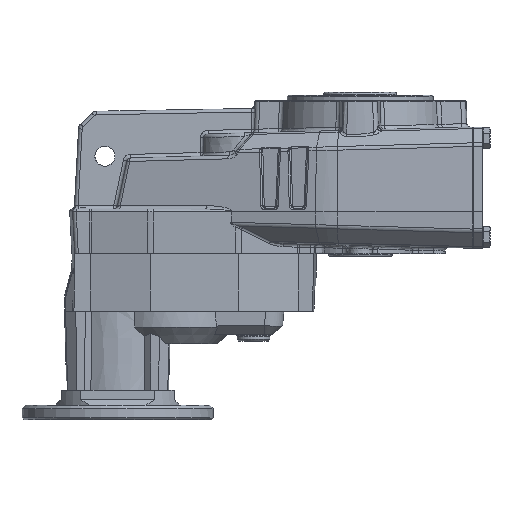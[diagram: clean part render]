
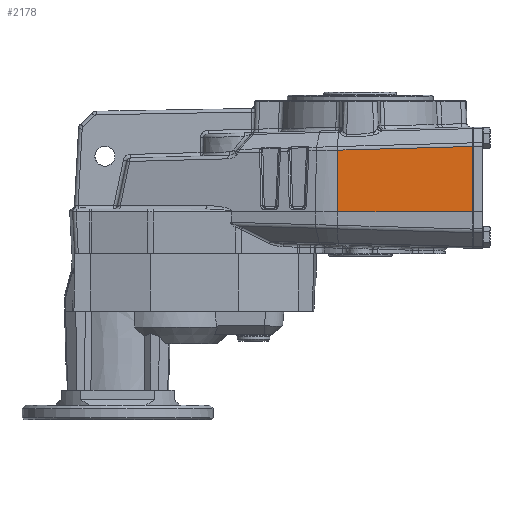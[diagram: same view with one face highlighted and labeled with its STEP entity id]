
A CAD part, left-side view. The second image highlights one B-rep face of the part: STEP entity #2178.
In plain terms, the highlighted planar face has unit normal (-0.998, 0.035, 0.044).
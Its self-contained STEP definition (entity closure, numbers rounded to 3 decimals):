
#2178 = ADVANCED_FACE( '', ( #5205 ), #5206, .T. );
#5205 = FACE_OUTER_BOUND( '', #11420, .T. );
#5206 = PLANE( '', #11421 );
#11420 = EDGE_LOOP( '', ( #22494, #22495, #22496, #22497 ) );
#11421 = AXIS2_PLACEMENT_3D( '', #22498, #22499, #22500 );
#22494 = ORIENTED_EDGE( '', *, *, #29038, .F. );
#22495 = ORIENTED_EDGE( '', *, *, #28601, .T. );
#22496 = ORIENTED_EDGE( '', *, *, #28528, .F. );
#22497 = ORIENTED_EDGE( '', *, *, #28637, .T. );
#22498 = CARTESIAN_POINT( '', ( -63.244, 102.834, -61. ) );
#22499 = DIRECTION( '', ( -0.998, 0.035, 0.044 ) );
#22500 = DIRECTION( '', ( -0.044, 0., -0.999 ) );
#28528 = EDGE_CURVE( '', #32508, #32509, #32510, .T. );
#28601 = EDGE_CURVE( '', #32638, #32509, #32639, .T. );
#28637 = EDGE_CURVE( '', #32508, #32699, #32700, .T. );
#29038 = EDGE_CURVE( '', #32638, #32699, #33419, .T. );
#32508 = VERTEX_POINT( '', #38340 );
#32509 = VERTEX_POINT( '', #38341 );
#32510 = LINE( '', #38342, #38343 );
#32638 = VERTEX_POINT( '', #38614 );
#32639 = LINE( '', #38615, #38616 );
#32699 = VERTEX_POINT( '', #38880 );
#32700 = LINE( '', #38881, #38882 );
#33419 = LINE( '', #41018, #41019 );
#38340 = CARTESIAN_POINT( '', ( -64.933, 12.176, -27.192 ) );
#38341 = CARTESIAN_POINT( '', ( -67.417, -61.483, -25.175 ) );
#38342 = CARTESIAN_POINT( '', ( -61.848, 103.644, -29.697 ) );
#38343 = VECTOR( '', #52392, 1000. );
#38614 = CARTESIAN_POINT( '', ( -68.982, -61.483, -61. ) );
#38615 = CARTESIAN_POINT( '', ( -68.971, -61.483, -60.75 ) );
#38616 = VECTOR( '', #52469, 1000. );
#38880 = CARTESIAN_POINT( '', ( -66.408, 12.228, -61. ) );
#38881 = CARTESIAN_POINT( '', ( -66.408, 12.228, -61. ) );
#38882 = VECTOR( '', #52499, 1000. );
#41018 = CARTESIAN_POINT( '', ( -63.244, 102.834, -61. ) );
#41019 = VECTOR( '', #52873, 1000. );
#52392 = DIRECTION( '', ( -0.034, -0.999, 0.027 ) );
#52469 = DIRECTION( '', ( 0.044, 0., 0.999 ) );
#52499 = DIRECTION( '', ( -0.044, 0.002, -0.999 ) );
#52873 = DIRECTION( '', ( 0.035, 0.999, 0. ) );
